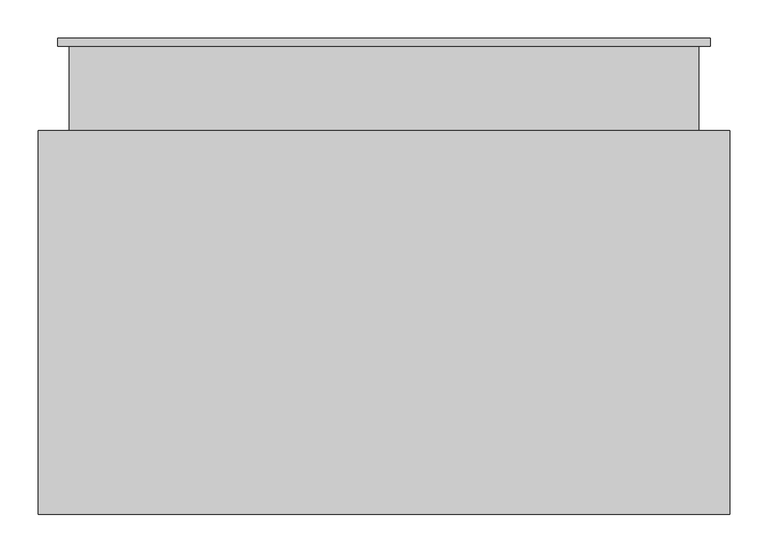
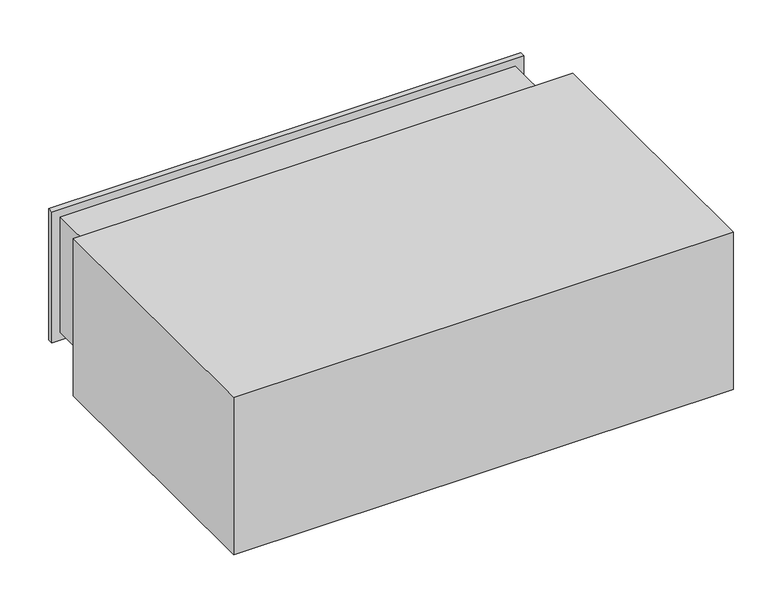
"""IFC4 building model written with IfcOpenShell, lengths in millimetres: air terminal geometry, 020_外気取入ガラリ : 外気取入ガラリ."""

from ifc_helpers import new_model, si_unit, frame, origin, place, context, project, spatial, polyline, outline, extrude, faceted_brep, source, transform, mapped, element, save


def air_terminal_4ac3df19(model_context):
    return source(origin(), model_context, "Body", "SolidModel", [
        extrude(outline(polyline([(-48.0, 53.3333333), (-48.0, 38.3333333), (10.0, 8.3333333), (10.0, -6.6666667), (8.0, -6.6666667), (8.0, 7.1161157), (-50.0, 37.1161157), (-50.0, 53.3333333), (-48.0, 53.3333333)])), frame((-400.0, 0.0, 0.0), z_axis=(1.0, 0.0, 0.0), x_axis=(0.0, 1.0, 0.0)), (0.0, 0.0, 1.0), 800.0),
        extrude(outline(polyline([(-48.0, 6.6666667), (-48.0, -8.3333333), (10.0, -38.3333333), (10.0, -53.3333333), (8.0, -53.3333333), (8.0, -39.5505509), (-50.0, -9.5505509), (-50.0, 6.6666667), (-48.0, 6.6666667)])), frame((-400.0, 0.0, 0.0), z_axis=(1.0, 0.0, 0.0), x_axis=(0.0, 1.0, 0.0)), (0.0, 0.0, 1.0), 800.0),
        extrude(outline(polyline([(-48.0, 100.0), (-48.0, 85.0), (10.0, 55.0), (10.0, 40.0), (8.0, 40.0), (8.0, 53.7827824), (-50.0, 83.7827824), (-50.0, 100.0), (-48.0, 100.0)])), frame((-400.0, 0.0, 0.0), z_axis=(1.0, 0.0, 0.0), x_axis=(0.0, 1.0, 0.0)), (0.0, 0.0, 1.0), 800.0),
        extrude(outline(polyline([(-48.0, -40.0), (-48.0, -55.0), (10.0, -85.0), (10.0, -100.0), (8.0, -100.0), (8.0, -86.2172176), (-50.0, -56.2172176), (-50.0, -40.0), (-48.0, -40.0)])), frame((-400.0, 0.0, 0.0), z_axis=(1.0, 0.0, 0.0), x_axis=(0.0, 1.0, 0.0)), (0.0, 0.0, 1.0), 800.0),
        faceted_brep([(400.0, 10.0, 100.0), (400.0, 10.0, -100.0), (400.0, -110.0, -100.0), (400.0, -110.0, 100.0), (425.0, 0.0, 125.0), (425.0, 0.0, -125.0), (425.0, 10.0, -125.0), (425.0, 10.0, 125.0), (410.0, -110.0, 110.0), (410.0, -110.0, -110.0), (410.0, 0.0, -110.0), (410.0, 0.0, 110.0), (-400.0, 10.0, -100.0), (-400.0, -110.0, -100.0), (-425.0, 0.0, -125.0), (-425.0, 10.0, -125.0), (-410.0, -110.0, -110.0), (-410.0, 0.0, -110.0), (-400.0, 10.0, 100.0), (-400.0, -110.0, 100.0), (-425.0, 0.0, 125.0), (-425.0, 10.0, 125.0), (-410.0, -110.0, 110.0), (-410.0, 0.0, 110.0)], [[[0, 1, 2, 3]], [[4, 5, 6, 7]], [[8, 9, 10, 11]], [[1, 12, 13, 2]], [[5, 14, 15, 6]], [[9, 16, 17, 10]], [[12, 18, 19, 13]], [[14, 20, 21, 15]], [[16, 22, 23, 17]], [[18, 0, 3, 19]], [[7, 6, 15, 21], [1, 0, 18, 12]], [[20, 4, 7, 21]], [[5, 4, 20, 14], [11, 10, 17, 23]], [[22, 8, 11, 23]], [[9, 8, 22, 16], [3, 2, 13, 19]]]),
        extrude(outline(polyline([(400.0, 0.0), (400.0, -10.0), (-400.0, -10.0), (-400.0, 0.0), (400.0, 0.0)])), frame((0.0, 0.0, -100.0), z_axis=(0.0, 0.0, 1.0), x_axis=(1.0, 0.0, 0.0)), (0.0, 0.0, 1.0), 200.0),
        extrude(outline(polyline([(450.0, -110.0), (450.0, -610.0), (-450.0, -610.0), (-450.0, -110.0), (450.0, -110.0)])), frame((0.0, 0.0, -150.0), z_axis=(0.0, 0.0, 1.0), x_axis=(1.0, 0.0, 0.0)), (0.0, 0.0, 1.0), 300.0),
    ])


if __name__ == "__main__":
    model = new_model("IFC4")
    model_context = context("Model", 3, world=origin())
    ifc_project = project(units=[si_unit("LENGTHUNIT", "METRE", prefix="MILLI")], contexts=[model_context])
    site = spatial("IfcSite", under=ifc_project)
    building = spatial("IfcBuilding", under=site)
    placement = place(None, origin())
    air_terminal_shape = air_terminal_4ac3df19(model_context)
    element("IfcAirTerminal", 1, ObjectType="020_外気取入ガラリ : 外気取入ガラリ", at=placement, inside=building, context=model_context, shape_type="MappedRepresentation", body=[
        mapped(air_terminal_shape, transform((0.0, 0.0, 0.0), x_axis=(1.0, 0.0, 0.0), y_axis=(0.0, 1.0, 0.0), z_axis=(0.0, 0.0, 1.0))),
    ])
    save(model, "model.ifc")
